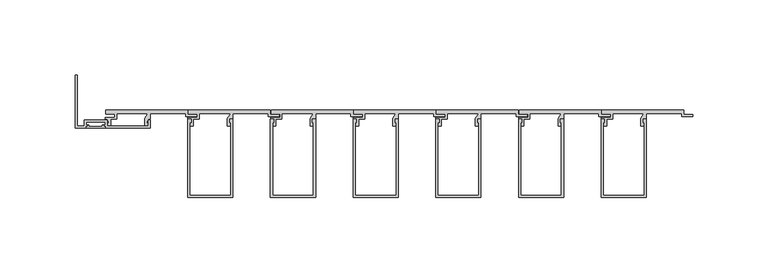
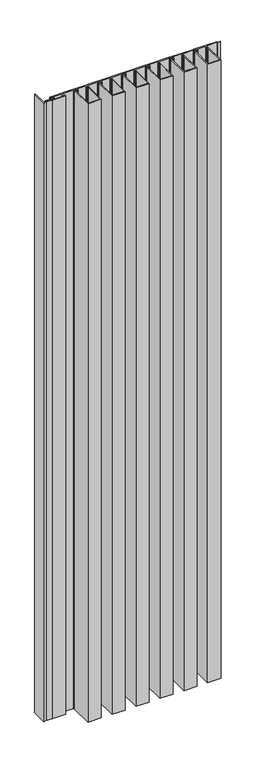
"""IFC4 building model written with IfcOpenShell, lengths in millimetres: proxy geometry, A_GEN_LINE_Small Base_Extended Cap_LTrim : A_GEN_LINE_Small Base_Extended Cap_LTrim."""

from ifc_helpers import new_model, si_unit, origin, origin_with_axes, place, context, project, spatial, polyline, outline, extrude, source, transform, mapped, element, save


def generic_models_1b919621(model_context):
    return source(origin(), model_context, "Body", "SweptSolid", [
        extrude(outline(polyline([(-13.0106499, -11.8818695), (-13.0106499, -10.9050009), (-12.1106499, -10.9050009), (-12.1106499, -10.0050009), (-11.2354943, -10.0050009), (-11.2354943, -10.9050009), (-2.1892046, -10.9050009), (-2.1892046, -10.0050009), (-1.314049, -10.0050009), (-1.314049, -10.9050009), (-0.414049, -10.9050009), (-0.414049, -11.8818695), (-13.0106499, -11.8818695)])), origin_with_axes(), (0.0, 0.0, 1.0), 1500.0),
        extrude(outline(polyline([(-0.414049, -10.9050009), (-1.314049, -10.9050009), (-1.314049, -10.0050009), (-0.414049, -10.0050009), (-0.414049, -7.8818695), (-13.0306499, -7.8818695), (-13.0306499, -10.0050009), (-12.1306499, -10.0050009), (-12.1306499, -10.9050009), (-13.0306499, -10.9050009), (-13.0306499, -11.8818695), (-20.3575953, -11.8818695), (-20.3575953, 23.3746551), (-18.9575953, 23.3746551), (-18.9575953, -10.4818695), (-14.4306499, -10.4818695), (-14.4306499, -6.4818695), (0.985951, -6.4818695), (0.985951, -10.4818695), (28.1839928, -10.4818695), (28.1839928, -6.4818695), (29.5839928, -6.4818695), (29.5839928, -11.8818695), (-0.414049, -11.8818695), (-0.414049, -10.9050009)])), origin_with_axes(), (0.0, 0.0, 1.0), 1500.0),
        extrude(outline(polyline([(329.5935072, -58.2007192), (329.5935072, -6.1), (331.7425142, -6.1), (331.7425142, -8.3419727), (330.9935072, -8.5826662), (330.9935072, -56.8007192), (358.1935072, -56.8007192), (358.1935072, -8.5826662), (357.4445002, -8.3419727), (357.4445002, -6.1), (359.5935072, -6.1), (359.5935072, -58.2007192), (329.5935072, -58.2007192)])), origin_with_axes(), (0.0, 0.0, 1.0), 1500.0),
        extrude(outline(polyline([(274.5919, -58.2007192), (274.5919, -6.1), (276.740907, -6.1), (276.740907, -8.3419727), (275.9919, -8.5826662), (275.9919, -56.8007192), (303.1919, -56.8007192), (303.1919, -8.5826662), (302.4428931, -8.3419727), (302.4428931, -6.1), (304.5919, -6.1), (304.5919, -58.2007192), (274.5919, -58.2007192)])), origin_with_axes(), (0.0, 0.0, 1.0), 1500.0),
        extrude(outline(polyline([(219.5902928, -58.2007192), (219.5902928, -6.1), (221.7392998, -6.1), (221.7392998, -8.3419727), (220.9902928, -8.5826662), (220.9902928, -56.8007192), (248.1902928, -56.8007192), (248.1902928, -8.5826662), (247.4412859, -8.3419727), (247.4412859, -6.1), (249.5902928, -6.1), (249.5902928, -58.2007192), (219.5902928, -58.2007192)])), origin_with_axes(), (0.0, 0.0, 1.0), 1500.0),
        extrude(outline(polyline([(164.5886856, -58.2007192), (164.5886856, -6.1), (166.7376926, -6.1), (166.7376926, -8.3419727), (165.9886856, -8.5826662), (165.9886856, -56.8007192), (193.1886856, -56.8007192), (193.1886856, -8.5826662), (192.4396787, -8.3419727), (192.4396787, -6.1), (194.5886856, -6.1), (194.5886856, -58.2007192), (164.5886856, -58.2007192)])), origin_with_axes(), (0.0, 0.0, 1.0), 1500.0),
        extrude(outline(polyline([(109.5870785, -58.2007192), (109.5870785, -6.1), (111.7360854, -6.1), (111.7360854, -8.3419727), (110.9870785, -8.5826662), (110.9870785, -56.8007192), (138.1870785, -56.8007192), (138.1870785, -8.5826662), (137.4380715, -8.3419727), (137.4380715, -6.1), (139.5870785, -6.1), (139.5870785, -58.2007192), (109.5870785, -58.2007192)])), origin_with_axes(), (0.0, 0.0, 1.0), 1500.0),
        extrude(outline(polyline([(54.5854713, -58.2007192), (54.5854713, -6.1), (56.7344782, -6.1), (56.7344782, -8.3419727), (55.9854713, -8.5826662), (55.9854713, -56.8007192), (83.1854713, -56.8007192), (83.1854713, -8.5826662), (82.4364643, -8.3419727), (82.4364643, -6.1), (84.5854713, -6.1), (84.5854713, -58.2007192), (54.5854713, -58.2007192)])), origin_with_axes(), (0.0, 0.0, 1.0), 1500.0),
        extrude(outline(polyline([(330.0, 0.0), (384.5728944, 0.0), (384.5728944, -2.85), (390.5728944, -2.85), (390.5728944, -4.2), (383.0545393, -4.2), (383.0545393, -2.4), (359.5849719, -2.4), (359.5849719, -6.1021884), (358.4699984, -6.1021884), (356.8814326, -8.4994005), (358.1433665, -8.4994005), (358.1433665, -10.4818695), (355.9408405, -10.4818695), (355.9408405, -5.6343123), (358.0399616, -2.4), (337.2195527, -2.4), (337.2195527, -6.1), (333.2291033, -6.1), (333.2291033, -10.4818695), (331.0265772, -10.4818695), (331.0265772, -8.4994005), (332.2885111, -8.4994005), (330.6999453, -6.1021884), (329.6137598, -6.1021884), (329.6137598, -4.9), (336.0195527, -4.9), (336.0195527, -2.7), (330.0, -2.7), (330.0, 0.0)])), origin_with_axes(), (0.0, 0.0, 1.0), 1500.0),
        extrude(outline(polyline([(275.0, 0.0), (329.5728944, 0.0), (329.5728944, -2.85), (335.5728944, -2.85), (335.5728944, -4.2), (328.0545393, -4.2), (328.0545393, -2.4), (304.5849719, -2.4), (304.5849719, -6.1021884), (303.4699984, -6.1021884), (301.8814326, -8.4994005), (303.1433665, -8.4994005), (303.1433665, -10.4818695), (300.9408405, -10.4818695), (300.9408405, -5.6343123), (303.0399616, -2.4), (282.2195527, -2.4), (282.2195527, -6.1), (278.2291033, -6.1), (278.2291033, -10.4818695), (276.0265772, -10.4818695), (276.0265772, -8.4994005), (277.2885111, -8.4994005), (275.6999453, -6.1021884), (274.6137598, -6.1021884), (274.6137598, -4.9), (281.0195527, -4.9), (281.0195527, -2.7), (275.0, -2.7), (275.0, 0.0)])), origin_with_axes(), (0.0, 0.0, 1.0), 1500.0),
        extrude(outline(polyline([(220.0, 0.0), (274.5728944, 0.0), (274.5728944, -2.85), (280.5728944, -2.85), (280.5728944, -4.2), (273.0545393, -4.2), (273.0545393, -2.4), (249.5849719, -2.4), (249.5849719, -6.1021884), (248.4699984, -6.1021884), (246.8814326, -8.4994005), (248.1433665, -8.4994005), (248.1433665, -10.4818695), (245.9408405, -10.4818695), (245.9408405, -5.6343123), (248.0399616, -2.4), (227.2195527, -2.4), (227.2195527, -6.1), (223.2291033, -6.1), (223.2291033, -10.4818695), (221.0265772, -10.4818695), (221.0265772, -8.4994005), (222.2885111, -8.4994005), (220.6999453, -6.1021884), (219.6137598, -6.1021884), (219.6137598, -4.9), (226.0195527, -4.9), (226.0195527, -2.7), (220.0, -2.7), (220.0, 0.0)])), origin_with_axes(), (0.0, 0.0, 1.0), 1500.0),
        extrude(outline(polyline([(165.0, 0.0), (219.5728944, 0.0), (219.5728944, -2.85), (225.5728944, -2.85), (225.5728944, -4.2), (218.0545393, -4.2), (218.0545393, -2.4), (194.5849719, -2.4), (194.5849719, -6.1021884), (193.4699984, -6.1021884), (191.8814326, -8.4994005), (193.1433665, -8.4994005), (193.1433665, -10.4818695), (190.9408405, -10.4818695), (190.9408405, -5.6343123), (193.0399616, -2.4), (172.2195527, -2.4), (172.2195527, -6.1), (168.2291033, -6.1), (168.2291033, -10.4818695), (166.0265772, -10.4818695), (166.0265772, -8.4994005), (167.2885111, -8.4994005), (165.6999453, -6.1021884), (164.6137598, -6.1021884), (164.6137598, -4.9), (171.0195527, -4.9), (171.0195527, -2.7), (165.0, -2.7), (165.0, 0.0)])), origin_with_axes(), (0.0, 0.0, 1.0), 1500.0),
        extrude(outline(polyline([(110.0, 0.0), (164.5728944, 0.0), (164.5728944, -2.85), (170.5728944, -2.85), (170.5728944, -4.2), (163.0545393, -4.2), (163.0545393, -2.4), (139.5849719, -2.4), (139.5849719, -6.1021884), (138.4699984, -6.1021884), (136.8814326, -8.4994005), (138.1433665, -8.4994005), (138.1433665, -10.4818695), (135.9408405, -10.4818695), (135.9408405, -5.6343123), (138.0399616, -2.4), (117.2195527, -2.4), (117.2195527, -6.1), (113.2291033, -6.1), (113.2291033, -10.4818695), (111.0265772, -10.4818695), (111.0265772, -8.4994005), (112.2885111, -8.4994005), (110.6999453, -6.1021884), (109.6137598, -6.1021884), (109.6137598, -4.9), (116.0195527, -4.9), (116.0195527, -2.7), (110.0, -2.7), (110.0, 0.0)])), origin_with_axes(), (0.0, 0.0, 1.0), 1500.0),
        extrude(outline(polyline([(55.0, 0.0), (109.5728944, 0.0), (109.5728944, -2.85), (115.5728944, -2.85), (115.5728944, -4.2), (108.0545393, -4.2), (108.0545393, -2.4), (84.5849719, -2.4), (84.5849719, -6.1021884), (83.4699984, -6.1021884), (81.8814326, -8.4994005), (83.1433665, -8.4994005), (83.1433665, -10.4818695), (80.9408405, -10.4818695), (80.9408405, -5.6343123), (83.0399616, -2.4), (62.2195527, -2.4), (62.2195527, -6.1), (58.2291033, -6.1), (58.2291033, -10.4818695), (56.0265772, -10.4818695), (56.0265772, -8.4994005), (57.2885111, -8.4994005), (55.6999453, -6.1021884), (54.6137598, -6.1021884), (54.6137598, -4.9), (61.0195527, -4.9), (61.0195527, -2.7), (55.0, -2.7), (55.0, 0.0)])), origin_with_axes(), (0.0, 0.0, 1.0), 1500.0),
        extrude(outline(polyline([(0.0, 0.0), (54.5728944, 0.0), (54.5728944, -2.85), (60.5728944, -2.85), (60.5728944, -4.2), (53.0545393, -4.2), (53.0545393, -2.4), (29.5849719, -2.4), (29.5849719, -6.1021884), (28.4699984, -6.1021884), (26.8814326, -8.4994005), (28.1433665, -8.4994005), (28.1433665, -10.4818695), (25.9408405, -10.4818695), (25.9408405, -5.6343123), (28.0399616, -2.4), (7.2195527, -2.4), (7.2195527, -6.1), (3.2291033, -6.1), (3.2291033, -10.4818695), (1.0265772, -10.4818695), (1.0265772, -8.4994005), (2.2885111, -8.4994005), (0.6999453, -6.1021884), (-0.3862402, -6.1021884), (-0.3862402, -4.9), (6.0195527, -4.9), (6.0195527, -2.7), (0.0, -2.7), (0.0, 0.0)])), origin_with_axes(), (0.0, 0.0, 1.0), 1500.0),
    ])


if __name__ == "__main__":
    model = new_model("IFC4")
    model_context = context("Model", 3, world=origin())
    ifc_project = project(units=[si_unit("LENGTHUNIT", "METRE", prefix="MILLI")], contexts=[model_context])
    site = spatial("IfcSite", under=ifc_project)
    building = spatial("IfcBuilding", under=site)
    placement = place(None, origin())
    generic_models_shape = generic_models_1b919621(model_context)
    element("IfcBuildingElementProxy", 1, Name="A_GEN_LINE_Small Base_Extended Cap_LTrim : A_GEN_LINE_Small Base_Extended Cap_LTrim", ObjectType="A_GEN_LINE_Small Base_Extended Cap_LTrim : A_GEN_LINE_Small Base_Extended Cap_LTrim", at=placement, inside=building, context=model_context, shape_type="MappedRepresentation", body=[
        mapped(generic_models_shape, transform((0.0, 0.0, 0.0), x_axis=(1.0, 0.0, 0.0), y_axis=(0.0, 1.0, 0.0), z_axis=(0.0, 0.0, 1.0))),
    ])
    save(model, "model.ifc")
